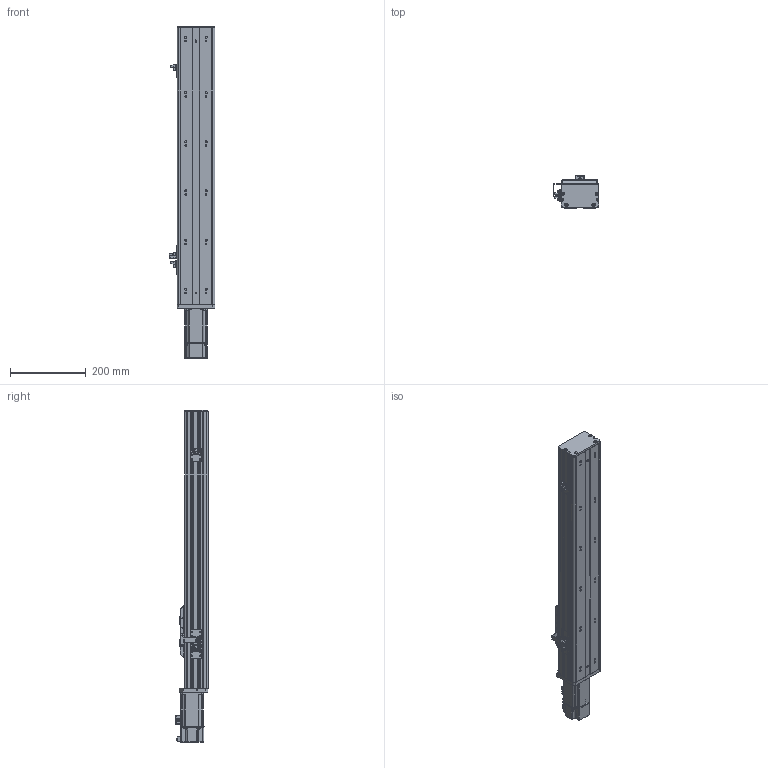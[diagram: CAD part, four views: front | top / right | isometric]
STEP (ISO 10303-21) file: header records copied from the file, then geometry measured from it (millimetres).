
FILE_DESCRIPTION (( 'STEP AP203' ), '1' );
FILE_NAME ('BOSW100-500-1610-1P-CM-M400W-O-S3（方程式2016）.step', '2020-10-10T06:33:12', ( '' ), ( '' ), 'SwSTEP 2.0', 'SolidWorks 2016', '' );
FILE_SCHEMA (( 'CONFIG_CONTROL_DESIGN' ));
Length unit declared in the file: millimetre
Products named in the file (13): BOSW-100-1P-CM-宽轨-钢带-500客户图纸; 新结构AIMSW-100-1P-宽&高轨共用-滑动座上组件; BOSW100-500-1610-1P-CM-M400W-O-S3（方程式2016）; S400W(SMA-L040); 俋境嫖覜嘐隅啣; 放大器内置U型微型光电传感器PM-L65; BOSW-100-CM-宽轨-三菱M200W&400W马达板(新结构); BOSW-100-綴裔啣; BOSW&TW-100-俋离覜茼え; BOSW-100-1P-CM-500諦誧芞; BOSW&TW-100-詩湍揤沭(陔賦凳); BOSW&TW-100-1P-賑雄釱欶; BOSW-100-1P-CM-宽轨-侧板-500客户图纸
Assembly tree (18 placements, depth 2):
  BOSW100-500-1610-1P-CM-M400W-O-S3（方程式2016）
    BOSW-100-1P-CM-500諦誧芞
    BOSW-100-綴裔啣
    新结构AIMSW-100-1P-宽&高轨共用-滑动座上组件
    S400W(SMA-L040)
    BOSW&TW-100-詩湍揤沭(陔賦凳)  x2
    BOSW&TW-100-1P-賑雄釱欶
    BOSW&TW-100-俋离覜茼え
    俋境嫖覜嘐隅啣  x3
    放大器内置U型微型光电传感器PM-L65  x3
    BOSW-100-CM-宽轨-三菱M200W&400W马达板(新结构)
    BOSW-100-1P-CM-宽轨-侧板-500客户图纸  x2
    BOSW-100-1P-CM-宽轨-钢带-500客户图纸
Bounding box: 120.9 x 85.5 x 877.8 mm (x, y, z)
Volume: 1740245.8 mm3; surface area: 786346 mm2
Topology: 18 solids, 18 shells, 2495 faces, 6576 edges, 4193 vertices
Faces by surface type: plane 1222, cylinder 789, bspline 271, cone 165, torus 36, sphere 12
Entity records: 68108 total; most frequent: CARTESIAN_POINT 20534, ORIENTED_EDGE 9692, DIRECTION 9404, EDGE_CURVE 4846, AXIS2_PLACEMENT_3D 3346, VERTEX_POINT 3095, VECTOR 2712, LINE 2712
